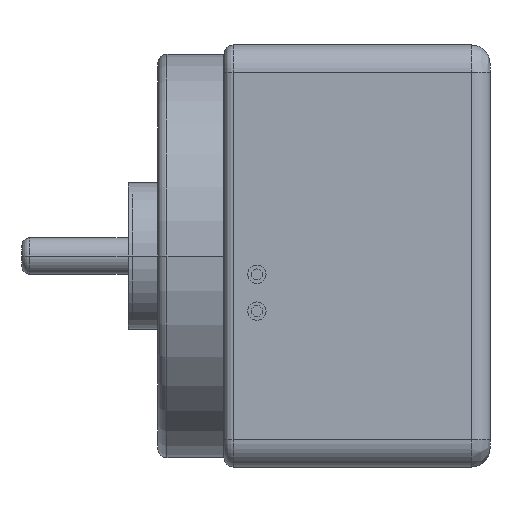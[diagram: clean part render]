
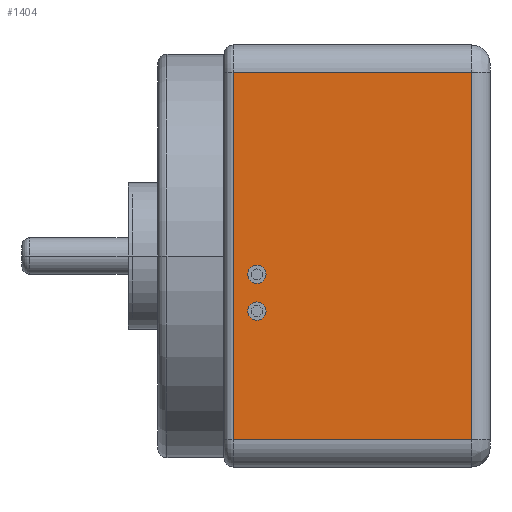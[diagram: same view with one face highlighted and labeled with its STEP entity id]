
A CAD part, front view. The second image highlights one B-rep face of the part: STEP entity #1404.
In plain terms, the highlighted planar face has unit normal (0, -1, 0).
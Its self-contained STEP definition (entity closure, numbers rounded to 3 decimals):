
#374=DIRECTION('',(0.,0.,1.));
#375=VECTOR('',#374,20.);
#376=CARTESIAN_POINT('',(0.5,-14.,-10.));
#377=LINE('',#376,#375);
#378=DIRECTION('',(-1.,0.,0.));
#379=VECTOR('',#378,13.);
#380=CARTESIAN_POINT('',(13.5,-14.,10.));
#381=LINE('',#380,#379);
#382=DIRECTION('',(0.,0.,-1.));
#383=VECTOR('',#382,20.);
#384=CARTESIAN_POINT('',(13.5,-14.,10.));
#385=LINE('',#384,#383);
#386=DIRECTION('',(-1.,0.,0.));
#387=VECTOR('',#386,13.);
#388=CARTESIAN_POINT('',(13.5,-14.,-10.));
#389=LINE('',#388,#387);
#390=CARTESIAN_POINT('',(1.8,-14.,-1.));
#391=DIRECTION('',(0.,-1.,0.));
#392=DIRECTION('',(0.,0.,-1.));
#393=AXIS2_PLACEMENT_3D('',#390,#391,#392);
#395=CARTESIAN_POINT('',(1.8,-14.,-1.));
#396=DIRECTION('',(0.,-1.,0.));
#397=DIRECTION('',(0.,0.,1.));
#398=AXIS2_PLACEMENT_3D('',#395,#396,#397);
#400=CARTESIAN_POINT('',(1.8,-14.,-3.));
#401=DIRECTION('',(0.,-1.,0.));
#402=DIRECTION('',(0.,0.,-1.));
#403=AXIS2_PLACEMENT_3D('',#400,#401,#402);
#405=CARTESIAN_POINT('',(1.8,-14.,-3.));
#406=DIRECTION('',(0.,-1.,0.));
#407=DIRECTION('',(0.,0.,1.));
#408=AXIS2_PLACEMENT_3D('',#405,#406,#407);
#871=CARTESIAN_POINT('',(0.5,-14.,-10.));
#872=CARTESIAN_POINT('',(0.5,-14.,10.));
#873=VERTEX_POINT('',#871);
#874=VERTEX_POINT('',#872);
#880=CARTESIAN_POINT('',(13.5,-14.,10.));
#882=VERTEX_POINT('',#880);
#884=CARTESIAN_POINT('',(13.5,-14.,-10.));
#886=VERTEX_POINT('',#884);
#923=CARTESIAN_POINT('',(1.8,-14.,-1.5));
#924=CARTESIAN_POINT('',(1.8,-14.,-0.5));
#925=VERTEX_POINT('',#923);
#926=VERTEX_POINT('',#924);
#927=CARTESIAN_POINT('',(1.8,-14.,-3.5));
#928=CARTESIAN_POINT('',(1.8,-14.,-2.5));
#929=VERTEX_POINT('',#927);
#930=VERTEX_POINT('',#928);
#1378=CARTESIAN_POINT('',(0.,-14.,11.5));
#1379=DIRECTION('',(0.,-1.,0.));
#1380=DIRECTION('',(0.,0.,-1.));
#1381=AXIS2_PLACEMENT_3D('',#1378,#1379,#1380);
#1382=PLANE('',#1381);
#1384=ORIENTED_EDGE('',*,*,#1383,.T.);
#1386=ORIENTED_EDGE('',*,*,#1385,.F.);
#1388=ORIENTED_EDGE('',*,*,#1387,.T.);
#1389=ORIENTED_EDGE('',*,*,#1369,.T.);
#1390=EDGE_LOOP('',(#1384,#1386,#1388,#1389));
#1391=FACE_OUTER_BOUND('',#1390,.F.);
#1393=ORIENTED_EDGE('',*,*,#1392,.T.);
#1395=ORIENTED_EDGE('',*,*,#1394,.T.);
#1396=EDGE_LOOP('',(#1393,#1395));
#1397=FACE_BOUND('',#1396,.F.);
#1399=ORIENTED_EDGE('',*,*,#1398,.T.);
#1401=ORIENTED_EDGE('',*,*,#1400,.T.);
#1402=EDGE_LOOP('',(#1399,#1401));
#1403=FACE_BOUND('',#1402,.F.);
#1404=ADVANCED_FACE('',(#1391,#1397,#1403),#1382,.T.);
#394=CIRCLE('',#393,0.5);
#399=CIRCLE('',#398,0.5);
#404=CIRCLE('',#403,0.5);
#409=CIRCLE('',#408,0.5);
#1369=EDGE_CURVE('',#886,#873,#389,.T.);
#1383=EDGE_CURVE('',#873,#874,#377,.T.);
#1385=EDGE_CURVE('',#882,#874,#381,.T.);
#1387=EDGE_CURVE('',#882,#886,#385,.T.);
#1392=EDGE_CURVE('',#925,#926,#394,.T.);
#1394=EDGE_CURVE('',#926,#925,#399,.T.);
#1398=EDGE_CURVE('',#929,#930,#404,.T.);
#1400=EDGE_CURVE('',#930,#929,#409,.T.);
